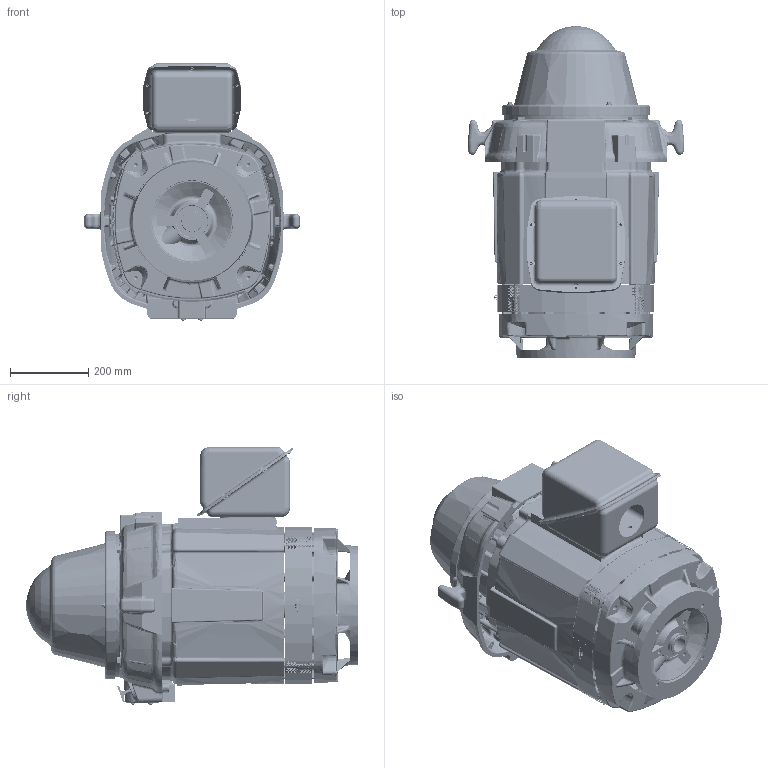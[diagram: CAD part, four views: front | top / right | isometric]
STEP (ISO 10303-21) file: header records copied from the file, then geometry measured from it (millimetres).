
FILE_DESCRIPTION((''),'2;1');
FILE_NAME('320_RU_12_WMSTL_ASM','2019-11-21T10:33:12',('EMD2335'),('Nidec Motor Corporation'),'CREO PARAMETRIC BY PTC INC, 2018420','CREO PARAMETRIC BY PTC INC, 2018420','');
FILE_SCHEMA(('CONFIG_CONTROL_DESIGN'));
Products named in the file (31): 2076243; 2087127-000; 0132591; 0521682; 192215_SPACER_BEARING; 0010041; 0005741-000; 0582109; 0192218_SHAFT; 083456_SH-215; 0966421; 0134378; 0387851-001; 0450438; 0966424-_CAP; 2079261; 2081471-000; 2079263; 2083842-SCRW; 0136805; 0167905; 0193118; 0134459-SPR; 0966417-0000; 0966419; 0192163; 2048939; 2048988-OBC; 2048940; 320-400-WM-STL-OB_ASM; 320_RU_12_WMSTL_ASM
Assembly tree (41 placements, depth 3):
  320_RU_12_WMSTL_ASM
    2076243
    2087127-000
    0132591
    0521682
    192215_SPACER_BEARING
    0010041
    0005741-000  x4
    0582109
    0192218_SHAFT
    083456_SH-215
    0966421
    0134378  x4
    0387851-001
    0450438
    0966424-_CAP
    2079261
    2081471-000
    2079263
    2083842-SCRW  x4
    0136805
    0167905  x3
    0193118
    0134459-SPR
    0966417-0000
    0966419
    0192163
    320-400-WM-STL-OB_ASM
      2048939
      2048988-OBC
      2048940
Bounding box: 551.18 x 846.31 x 656.32 mm (x, y, z)
Volume: 20725414.2 mm3; surface area: 6349020.3 mm2
Topology: 48 solids, 91 shells, 10320 faces, 25953 edges, 15804 vertices
Faces by surface type: bspline 3622, plane 2726, cylinder 1994, torus 993, cone 673, sphere 296, extrusion 16
Entity records: 439741 total; most frequent: CARTESIAN_POINT 228804, ORIENTED_EDGE 49225, DIRECTION 36037, EDGE_CURVE 24706, VERTEX_POINT 15038, AXIS2_PLACEMENT_3D 13830, EDGE_LOOP 10615, FACE_OUTER_BOUND 9881
